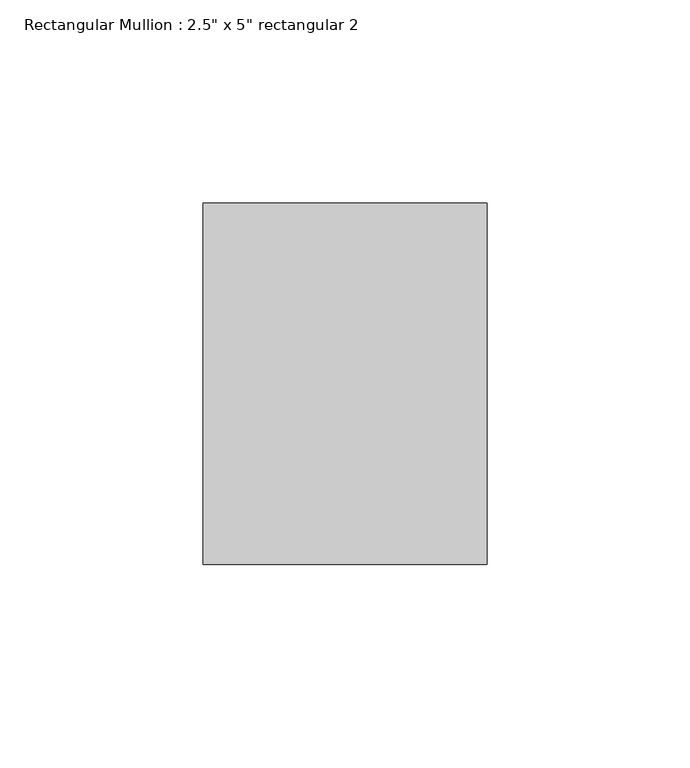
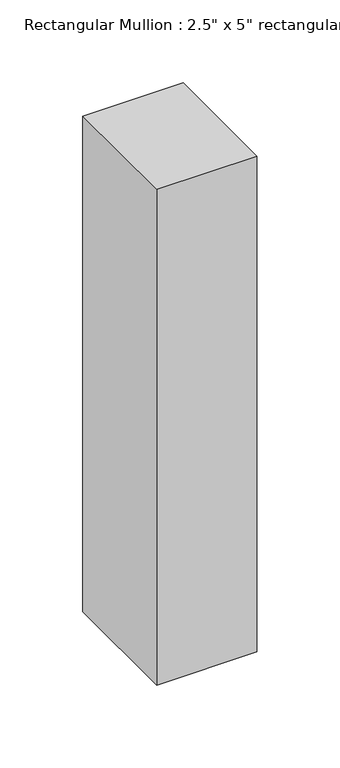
"""IFC4 building model written with IfcOpenShell, lengths in millimetres: member geometry."""

from ifc_helpers import new_model, si_unit, frame, origin, place, context, project, spatial, polyline, outline, extrude, source, transform, mapped, element, save


def member_701f3c1c(model_context):
    return source(origin(), model_context, "Body", "SweptSolid", [
        extrude(outline(polyline([(0.0, 44.45), (0.0, -44.45), (-69.85, -44.45), (-69.85, 44.45), (0.0, 44.45)])), frame((0.0, 0.0, -365.125), z_axis=(0.0, 0.0, 1.0), x_axis=(1.0, 0.0, 0.0)), (0.0, 0.0, 1.0), 365.125),
    ])


if __name__ == "__main__":
    model = new_model("IFC4")
    model_context = context("Model", 3, world=origin())
    ifc_project = project(units=[si_unit("LENGTHUNIT", "METRE", prefix="MILLI")], contexts=[model_context])
    site = spatial("IfcSite", under=ifc_project)
    building = spatial("IfcBuilding", under=site)
    placement = place(None, origin())
    member_shape = member_701f3c1c(model_context)
    element("IfcMember", 1, ObjectType="Rectangular Mullion : 2.5\" x 5\" rectangular 2", at=placement, inside=building, context=model_context, shape_type="MappedRepresentation", body=[
        mapped(member_shape, transform((0.0, 0.0, 0.0), x_axis=(1.0, 0.0, 0.0), y_axis=(0.0, 1.0, 0.0), z_axis=(0.0, 0.0, 1.0))),
    ])
    save(model, "model.ifc")
